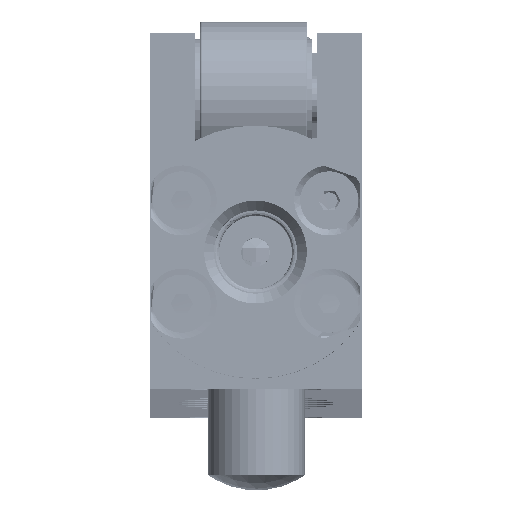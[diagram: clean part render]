
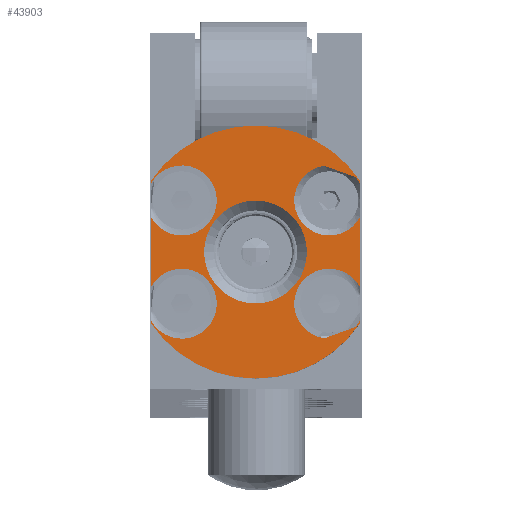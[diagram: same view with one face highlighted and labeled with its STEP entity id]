
A CAD part, top view. The second image highlights one B-rep face of the part: STEP entity #43903.
In plain terms, the highlighted planar face has unit normal (0, 0, 1).
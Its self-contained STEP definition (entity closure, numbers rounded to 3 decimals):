
#1594=FACE_BOUND('',#6844,.T.);
#1977=PLANE('',#48047);
#4174=FACE_OUTER_BOUND('',#6843,.T.);
#6843=EDGE_LOOP('',(#33213,#33214,#33215,#33216,#33217,#33218,#33219,#33220,
#33221,#33222,#33223,#33224,#33225,#33226,#33227,#33228));
#6844=EDGE_LOOP('',(#33229));
#9176=LINE('',#78998,#10794);
#9177=LINE('',#79001,#10795);
#9178=LINE('',#79005,#10796);
#9179=LINE('',#79009,#10797);
#9180=LINE('',#79013,#10798);
#9181=LINE('',#79017,#10799);
#9182=LINE('',#79021,#10800);
#9183=LINE('',#79024,#10801);
#10794=VECTOR('',#58346,10.);
#10795=VECTOR('',#58349,10.);
#10796=VECTOR('',#58352,10.);
#10797=VECTOR('',#58355,10.);
#10798=VECTOR('',#58358,10.);
#10799=VECTOR('',#58361,10.);
#10800=VECTOR('',#58364,10.);
#10801=VECTOR('',#58367,10.);
#13025=CIRCLE('',#48040,3.6);
#13028=CIRCLE('',#48043,3.6);
#13030=CIRCLE('',#48048,3.6);
#13031=CIRCLE('',#48049,3.6);
#13032=CIRCLE('',#48050,13.);
#13033=CIRCLE('',#48051,3.6);
#13034=CIRCLE('',#48052,3.6);
#13035=CIRCLE('',#48053,13.);
#13036=CIRCLE('',#48054,5.283);
#17882=VERTEX_POINT('',#78972);
#17883=VERTEX_POINT('',#78973);
#17884=VERTEX_POINT('',#78977);
#17888=VERTEX_POINT('',#78988);
#17890=VERTEX_POINT('',#79000);
#17891=VERTEX_POINT('',#79002);
#17892=VERTEX_POINT('',#79004);
#17893=VERTEX_POINT('',#79006);
#17894=VERTEX_POINT('',#79008);
#17895=VERTEX_POINT('',#79010);
#17896=VERTEX_POINT('',#79012);
#17897=VERTEX_POINT('',#79014);
#17898=VERTEX_POINT('',#79016);
#17899=VERTEX_POINT('',#79018);
#17900=VERTEX_POINT('',#79020);
#17901=VERTEX_POINT('',#79022);
#17902=VERTEX_POINT('',#79025);
#23509=EDGE_CURVE('',#17884,#17882,#13025,.T.);
#23515=EDGE_CURVE('',#17883,#17888,#13028,.T.);
#23518=EDGE_CURVE('',#17888,#17884,#9176,.T.);
#23519=EDGE_CURVE('',#17882,#17890,#9177,.T.);
#23520=EDGE_CURVE('',#17890,#17891,#13030,.T.);
#23521=EDGE_CURVE('',#17891,#17892,#9178,.T.);
#23522=EDGE_CURVE('',#17892,#17893,#13031,.T.);
#23523=EDGE_CURVE('',#17893,#17894,#9179,.T.);
#23524=EDGE_CURVE('',#17895,#17894,#13032,.T.);
#23525=EDGE_CURVE('',#17895,#17896,#9180,.T.);
#23526=EDGE_CURVE('',#17896,#17897,#13033,.T.);
#23527=EDGE_CURVE('',#17897,#17898,#9181,.T.);
#23528=EDGE_CURVE('',#17898,#17899,#13034,.T.);
#23529=EDGE_CURVE('',#17899,#17900,#9182,.T.);
#23530=EDGE_CURVE('',#17901,#17900,#13035,.T.);
#23531=EDGE_CURVE('',#17901,#17883,#9183,.T.);
#23532=EDGE_CURVE('',#17902,#17902,#13036,.T.);
#33213=ORIENTED_EDGE('',*,*,#23515,.T.);
#33214=ORIENTED_EDGE('',*,*,#23518,.T.);
#33215=ORIENTED_EDGE('',*,*,#23509,.T.);
#33216=ORIENTED_EDGE('',*,*,#23519,.T.);
#33217=ORIENTED_EDGE('',*,*,#23520,.T.);
#33218=ORIENTED_EDGE('',*,*,#23521,.T.);
#33219=ORIENTED_EDGE('',*,*,#23522,.T.);
#33220=ORIENTED_EDGE('',*,*,#23523,.T.);
#33221=ORIENTED_EDGE('',*,*,#23524,.F.);
#33222=ORIENTED_EDGE('',*,*,#23525,.T.);
#33223=ORIENTED_EDGE('',*,*,#23526,.T.);
#33224=ORIENTED_EDGE('',*,*,#23527,.T.);
#33225=ORIENTED_EDGE('',*,*,#23528,.T.);
#33226=ORIENTED_EDGE('',*,*,#23529,.T.);
#33227=ORIENTED_EDGE('',*,*,#23530,.F.);
#33228=ORIENTED_EDGE('',*,*,#23531,.T.);
#33229=ORIENTED_EDGE('',*,*,#23532,.F.);
#43903=ADVANCED_FACE('',(#4174,#1594),#1977,.T.);
#48040=AXIS2_PLACEMENT_3D('',#78978,#58330,#58331);
#48043=AXIS2_PLACEMENT_3D('',#78992,#58337,#58338);
#48047=AXIS2_PLACEMENT_3D('',#78999,#58347,#58348);
#48048=AXIS2_PLACEMENT_3D('',#79003,#58350,#58351);
#48049=AXIS2_PLACEMENT_3D('',#79007,#58353,#58354);
#48050=AXIS2_PLACEMENT_3D('',#79011,#58356,#58357);
#48051=AXIS2_PLACEMENT_3D('',#79015,#58359,#58360);
#48052=AXIS2_PLACEMENT_3D('',#79019,#58362,#58363);
#48053=AXIS2_PLACEMENT_3D('',#79023,#58365,#58366);
#48054=AXIS2_PLACEMENT_3D('',#79026,#58368,#58369);
#58330=DIRECTION('center_axis',(0.,0.,-1.));
#58331=DIRECTION('ref_axis',(-0.342,0.94,0.));
#58337=DIRECTION('center_axis',(0.,0.,-1.));
#58338=DIRECTION('ref_axis',(-0.342,0.94,0.));
#58346=DIRECTION('',(-0.94,-0.342,0.));
#58347=DIRECTION('center_axis',(0.,0.,1.));
#58348=DIRECTION('ref_axis',(1.,0.,0.));
#58349=DIRECTION('',(0.,1.,0.));
#58350=DIRECTION('center_axis',(0.,0.,-1.));
#58351=DIRECTION('ref_axis',(-0.342,-0.94,0.));
#58352=DIRECTION('',(0.94,-0.342,0.));
#58353=DIRECTION('center_axis',(0.,0.,-1.));
#58354=DIRECTION('ref_axis',(-0.342,-0.94,0.));
#58355=DIRECTION('',(0.,1.,0.));
#58356=DIRECTION('center_axis',(0.,0.,-1.));
#58357=DIRECTION('ref_axis',(0.,1.,0.));
#58358=DIRECTION('',(0.,-1.,0.));
#58359=DIRECTION('center_axis',(0.,0.,-1.));
#58360=DIRECTION('ref_axis',(1.,0.,0.));
#58361=DIRECTION('',(0.,-1.,0.));
#58362=DIRECTION('center_axis',(0.,0.,-1.));
#58363=DIRECTION('ref_axis',(1.,0.,0.));
#58364=DIRECTION('',(0.,-1.,0.));
#58365=DIRECTION('center_axis',(0.,0.,-1.));
#58366=DIRECTION('ref_axis',(0.,1.,0.));
#58367=DIRECTION('',(0.,1.,0.));
#58368=DIRECTION('center_axis',(0.,0.,1.));
#58369=DIRECTION('ref_axis',(-1.,0.,0.));
#78972=CARTESIAN_POINT('',(10.7,-7.855,1316.));
#78973=CARTESIAN_POINT('',(10.7,-11.256,1316.));
#78977=CARTESIAN_POINT('',(7.014,-13.119,1316.));
#78978=CARTESIAN_POINT('Origin',(7.527,-9.556,1316.));
#78988=CARTESIAN_POINT('',(10.211,-11.955,1316.));
#78992=CARTESIAN_POINT('Origin',(7.527,-9.556,1316.));
#78998=CARTESIAN_POINT('',(8.106,-12.721,1316.));
#78999=CARTESIAN_POINT('Origin',(-0.05,2.25,1316.));
#79000=CARTESIAN_POINT('',(10.7,-0.645,1316.));
#79001=CARTESIAN_POINT('',(10.7,-4.655,1316.));
#79002=CARTESIAN_POINT('',(7.014,4.619,1316.));
#79003=CARTESIAN_POINT('Origin',(7.527,1.056,1316.));
#79004=CARTESIAN_POINT('',(10.211,3.455,1316.));
#79005=CARTESIAN_POINT('',(6.017,4.982,1316.));
#79006=CARTESIAN_POINT('',(10.7,2.756,1316.));
#79007=CARTESIAN_POINT('Origin',(7.527,1.056,1316.));
#79008=CARTESIAN_POINT('',(10.7,3.06,1316.));
#79009=CARTESIAN_POINT('',(10.7,-4.655,1316.));
#79010=CARTESIAN_POINT('',(-10.8,3.06,1316.));
#79011=CARTESIAN_POINT('Origin',(-0.05,-4.25,1316.));
#79012=CARTESIAN_POINT('',(-10.8,2.756,1316.));
#79013=CARTESIAN_POINT('',(-10.8,2.655,1316.));
#79014=CARTESIAN_POINT('',(-10.8,-0.645,1316.));
#79015=CARTESIAN_POINT('Origin',(-7.627,1.056,1316.));
#79016=CARTESIAN_POINT('',(-10.8,-7.855,1316.));
#79017=CARTESIAN_POINT('',(-10.8,2.655,1316.));
#79018=CARTESIAN_POINT('',(-10.8,-11.256,1316.));
#79019=CARTESIAN_POINT('Origin',(-7.627,-9.556,1316.));
#79020=CARTESIAN_POINT('',(-10.8,-11.56,1316.));
#79021=CARTESIAN_POINT('',(-10.8,2.655,1316.));
#79022=CARTESIAN_POINT('',(10.7,-11.56,1316.));
#79023=CARTESIAN_POINT('Origin',(-0.05,-4.25,1316.));
#79024=CARTESIAN_POINT('',(10.7,-4.655,1316.));
#79025=CARTESIAN_POINT('',(5.233,-4.25,1316.));
#79026=CARTESIAN_POINT('Origin',(-0.05,-4.25,1316.));
